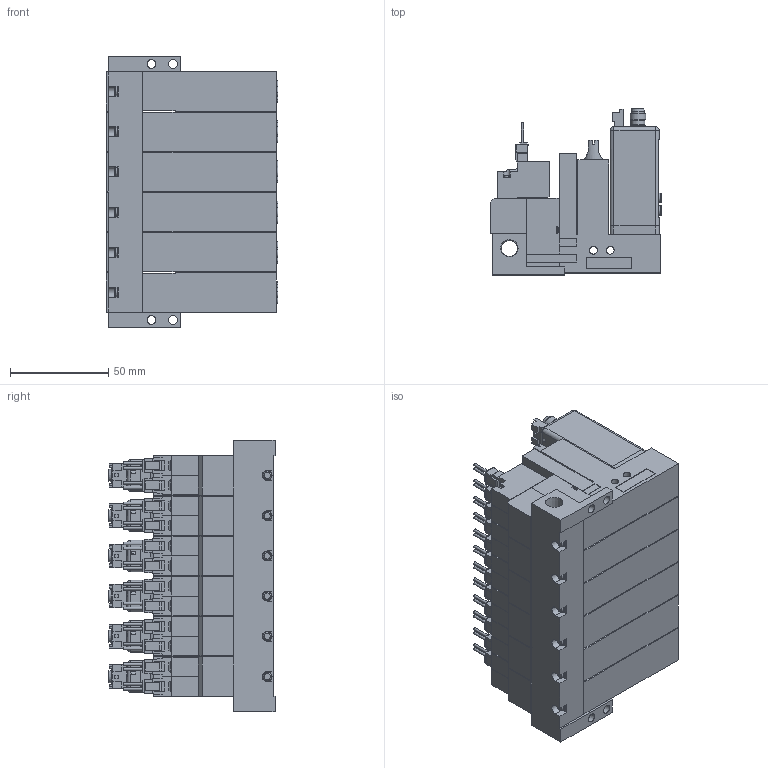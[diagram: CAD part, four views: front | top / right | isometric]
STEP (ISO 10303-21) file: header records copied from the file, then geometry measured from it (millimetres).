
FILE_DESCRIPTION(('STEP AP203'),'1');
FILE_NAME('22_22PL5BLR606.stp','2025-06-12T04:48:35',(' '),(' '),'Spatial InterOp 3D',' ',' ');
FILE_SCHEMA(('CONFIG_CONTROL_DESIGN'));
Length unit declared in the file: millimetre
Products named in the file (10): BMC22M※※※※22_22PL5BLR606; Solenoid valve B; Unit L; Base MR60R; MVS-202
Assembly tree (19 placements, depth 2):
  BMC22M※※※※22_22PL5BLR606
    Solenoid valve B  x6
    Unit L  x6
    Base MR60R
    MVS-202
    MVS-202
    MVS-202
    MVS-202
    MVS-202
    MVS-202
Bounding box: 87.5 x 84.6 x 138.5 mm (x, y, z)
Volume: 577433.4 mm3; surface area: 174360.5 mm2
Topology: 19 solids, 43 shells, 4485 faces, 11675 edges, 7630 vertices
Faces by surface type: plane 3770, cylinder 557, cone 98, torus 36, sphere 24
Full cylindrical faces by diameter (mm): 1 x24, 1.4 x24, 1.5 x6, 2.5 x6, 3 x24, 3.5 x24, 3.6 x6, 4 x12, 4.134 x6, 4.5 x28, 4.8 x18, 5 x12, 5.2 x6, 5.8 x12, 6 x12, 6.5 x18, 6.6 x6, 7 x6, 7.2 x6, 7.9 x6, 8 x12, 8.279 x1
Entity records: 87542 total; most frequent: CARTESIAN_POINT 15751, ORIENTED_EDGE 14316, DIRECTION 14142, EDGE_CURVE 7158, LINE 6030, VECTOR 6030, VERTEX_POINT 4845, AXIS2_PLACEMENT_3D 4056
